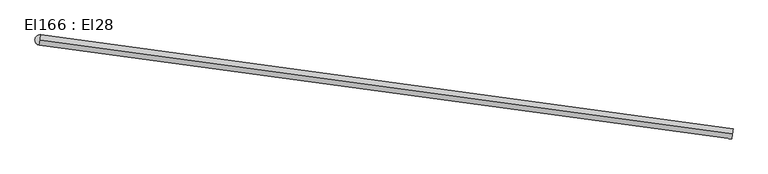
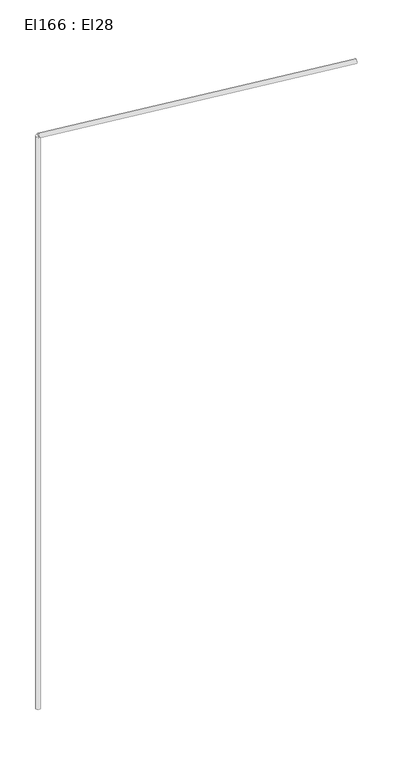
"""IFC4 building model written with IfcOpenShell, lengths in millimetres: cable carrier segment geometry, El166 : El28."""

from ifc_helpers import new_model, si_unit, point, frame, frame_2d, origin, place, context, project, spatial, circle_curve, trimmed, segment, composite_curve, outline, extrude, source, transform, mapped, element, save


def el166_el28_0edbba57(model_context):
    return source(origin(), model_context, "Body", "SweptSolid", [
        extrude(outline(composite_curve([segment(trimmed(circle_curve(frame_2d((114.4756511, 9192.6671745)), 9.5), [point((104.9756511, 9192.6671745))], [point((123.9756511, 9192.6671745))], False, "CARTESIAN"), True, "CONTINUOUS"), segment(trimmed(circle_curve(frame_2d((114.4756511, 9192.6671745)), 9.5), [point((123.9756511, 9192.6671745))], [point((104.9756511, 9192.6671745))], False, "CARTESIAN"), True, "CONTINUOUS")], self_intersect=False)), frame((0.0, 0.0, 1830.0), z_axis=(0.0, 0.0, 1.0), x_axis=(1.0, 0.0, 0.0)), (0.0, 0.0, 1.0), 2620.0),
        extrude(outline(composite_curve([segment(trimmed(circle_curve(frame_2d((0.0, -9.5)), 9.5), [point((0.0, -19.0))], [point((0.0, 0.0))], False, "CARTESIAN"), True, "CONTINUOUS"), segment(trimmed(circle_curve(frame_2d((0.0, -9.5)), 9.5), [point((0.0, 0.0))], [point((0.0, -19.0))], False, "CARTESIAN"), True, "CONTINUOUS")], self_intersect=False)), frame((1390.3936511, 9019.2706745, 4459.5), z_axis=(-0.9908915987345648, 0.13466194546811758, 0.0), x_axis=(-0.13466194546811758, -0.9908915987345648, 0.0)), (0.0, 0.0, 1.0), 1287.65),
    ])


if __name__ == "__main__":
    model = new_model("IFC4")
    model_context = context("Model", 3, world=origin())
    ifc_project = project(units=[si_unit("LENGTHUNIT", "METRE", prefix="MILLI")], contexts=[model_context])
    site = spatial("IfcSite", under=ifc_project)
    building = spatial("IfcBuilding", under=site)
    placement = place(None, origin())
    el166_el28_shape = el166_el28_0edbba57(model_context)
    element("IfcCableCarrierSegment", 1, ObjectType="El166 : El28", at=placement, inside=building, context=model_context, shape_type="MappedRepresentation", body=[
        mapped(el166_el28_shape, transform((0.0, 0.0, 0.0), x_axis=(1.0, 0.0, 0.0), y_axis=(0.0, 1.0, 0.0), z_axis=(0.0, 0.0, 1.0))),
    ])
    save(model, "model.ifc")
